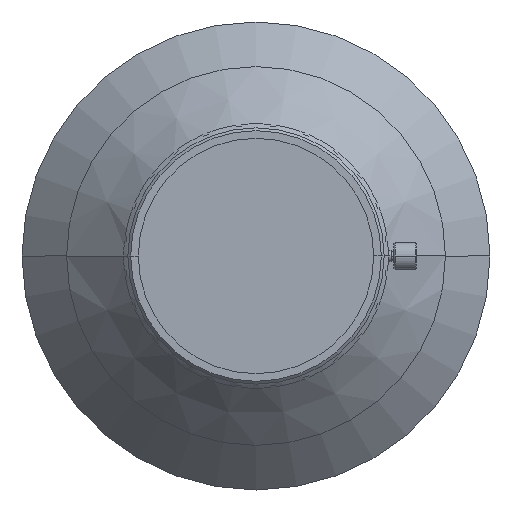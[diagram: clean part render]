
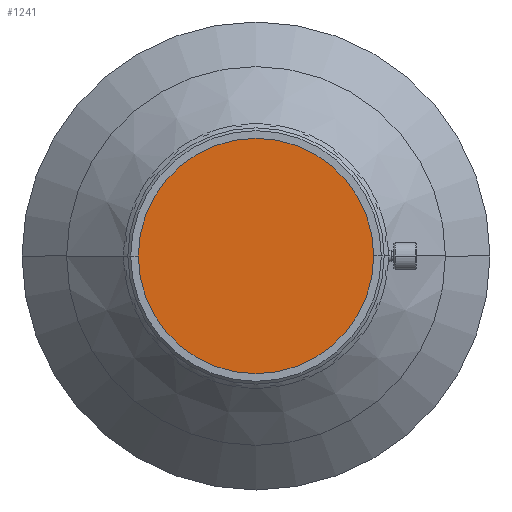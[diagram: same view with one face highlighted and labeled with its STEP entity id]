
A CAD part, left-side view. The second image highlights one B-rep face of the part: STEP entity #1241.
In plain terms, the highlighted planar face has unit normal (-1, 0, 0).
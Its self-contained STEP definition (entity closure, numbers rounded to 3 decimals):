
#1123 = DIRECTION ( 'NONE',  ( -1., 0., 0. ) ) ;
#1124 = DIRECTION ( 'NONE',  ( -1., 0., 0. ) ) ;
#1241 = ADVANCED_FACE ( 'NONE', ( #5437 ), #3681, .T. ) ;
#1408 = CARTESIAN_POINT ( 'NONE',  ( 2.5, 0., -21.5 ) ) ;
#1470 = AXIS2_PLACEMENT_3D ( 'NONE', #4201, #1123, #4719 ) ;
#1578 = EDGE_CURVE ( 'NONE', #4239, #2197, #5517, .T. ) ;
#2114 = CARTESIAN_POINT ( 'NONE',  ( 2.5, 0., 0. ) ) ;
#2197 = VERTEX_POINT ( 'NONE', #1408 ) ;
#2633 = DIRECTION ( 'NONE',  ( 0., 0., 1. ) ) ;
#2799 = AXIS2_PLACEMENT_3D ( 'NONE', #4202, #1124, #4720 ) ;
#2861 = EDGE_CURVE ( 'NONE', #2197, #4239, #2918, .T. ) ;
#2918 = CIRCLE ( 'NONE', #2799, 21.5 ) ;
#3235 = ORIENTED_EDGE ( 'NONE', *, *, #1578, .T. ) ;
#3274 = ORIENTED_EDGE ( 'NONE', *, *, #2861, .T. ) ;
#3556 = CARTESIAN_POINT ( 'NONE',  ( 2.5, 0., 21.5 ) ) ;
#3681 = PLANE ( 'NONE',  #1470 ) ;
#3758 = AXIS2_PLACEMENT_3D ( 'NONE', #2114, #5674, #2633 ) ;
#4201 = CARTESIAN_POINT ( 'NONE',  ( 2.5, 21.5, 0. ) ) ;
#4202 = CARTESIAN_POINT ( 'NONE',  ( 2.5, 0., 0. ) ) ;
#4239 = VERTEX_POINT ( 'NONE', #3556 ) ;
#4293 = EDGE_LOOP ( 'NONE', ( #3235, #3274 ) ) ;
#4719 = DIRECTION ( 'NONE',  ( 0., 0., 1. ) ) ;
#4720 = DIRECTION ( 'NONE',  ( 0., 0., 1. ) ) ;
#5437 = FACE_OUTER_BOUND ( 'NONE', #4293, .T. ) ;
#5517 = CIRCLE ( 'NONE', #3758, 21.5 ) ;
#5674 = DIRECTION ( 'NONE',  ( -1., 0., 0. ) ) ;
